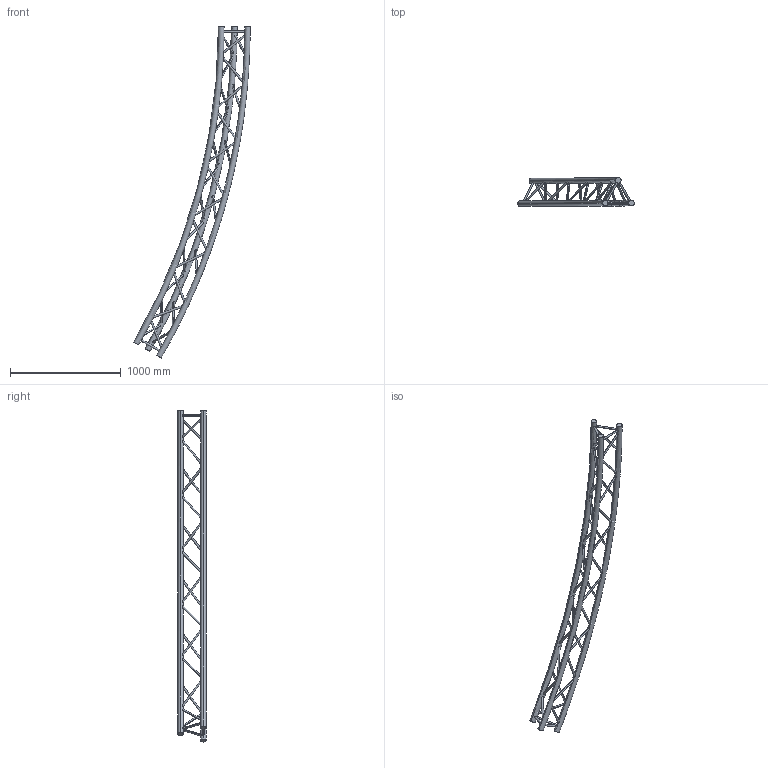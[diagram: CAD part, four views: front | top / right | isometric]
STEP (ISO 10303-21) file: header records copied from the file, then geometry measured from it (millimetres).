
FILE_DESCRIPTION (( 'STEP AP203' ), '1' );
FILE_NAME ('SXC291200PH.STEP', '2009-10-21T08:27:08', ( 'CEDIA' ), ( 'CEDIA INDUSTRIE' ), 'SwSTEP 2.0', 'SolidWorks 2009', '' );
FILE_SCHEMA (( 'CONFIG_CONTROL_DESIGN' ));
Length unit declared in the file: millimetre
Products named in the file (1): SXC291200PH
Bounding box: 1052.4 x 255.25 x 3000 mm (x, y, z)
Volume: 19960134.3 mm3; surface area: 1912320.2 mm2
Topology: 1 solids, 1 shells, 86 faces, 268 edges, 160 vertices
Faces by surface type: cylinder 74, torus 6, plane 6
Entity records: 9667 total; most frequent: CARTESIAN_POINT 7371, ORIENTED_EDGE 536, DIRECTION 340, EDGE_CURVE 268, VERTEX_POINT 160, B_SPLINE_CURVE_WITH_KNOTS 148, AXIS2_PLACEMENT_3D 133, EDGE_LOOP 132
